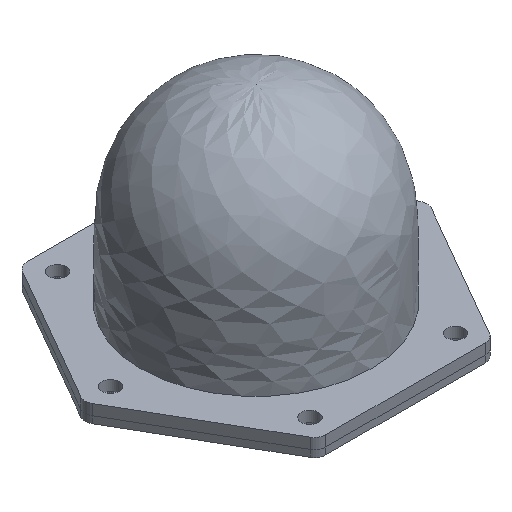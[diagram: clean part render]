
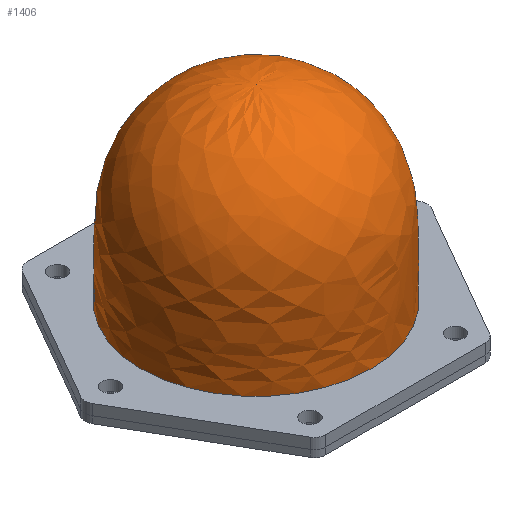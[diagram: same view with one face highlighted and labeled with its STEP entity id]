
A CAD part, isometric view. The second image highlights one B-rep face of the part: STEP entity #1406.
In plain terms, the highlighted face is a revolution surface.
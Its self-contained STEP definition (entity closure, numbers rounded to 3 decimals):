
#939 = EDGE_CURVE('',#940,#940,#942,.T.);
#940 = VERTEX_POINT('',#941);
#941 = CARTESIAN_POINT('',(15.,-25.981,4.55));
#942 = CIRCLE('',#943,30.);
#943 = AXIS2_PLACEMENT_3D('',#944,#945,#946);
#944 = CARTESIAN_POINT('',(0.,0.,4.55));
#945 = DIRECTION('',(0.,0.,1.));
#946 = DIRECTION('',(0.5,-0.866,0.));
#1406 = ADVANCED_FACE('',(#1407),#1422,.T.);
#1407 = FACE_BOUND('',#1408,.T.);
#1408 = EDGE_LOOP('',(#1409,#1410,#1421));
#1409 = ORIENTED_EDGE('',*,*,#939,.T.);
#1410 = ORIENTED_EDGE('',*,*,#1411,.T.);
#1411 = EDGE_CURVE('',#940,#1412,#1414,.T.);
#1412 = VERTEX_POINT('',#1413);
#1413 = CARTESIAN_POINT('',(0.,0.,53.8));
#1414 = B_SPLINE_CURVE_WITH_KNOTS('',3,(#1415,#1416,#1417,#1418,#1419,
    #1420),.UNSPECIFIED.,.F.,.F.,(4,1,1,4),(0.,0.333,
    0.667,1.),.UNSPECIFIED.);
#1415 = CARTESIAN_POINT('',(15.,-25.981,4.55));
#1416 = CARTESIAN_POINT('',(15.,-25.981,10.05));
#1417 = CARTESIAN_POINT('',(14.975,-25.937,17.3));
#1418 = CARTESIAN_POINT('',(14.875,-25.764,39.8));
#1419 = CARTESIAN_POINT('',(6.25,-10.825,53.8));
#1420 = CARTESIAN_POINT('',(0.,0.,53.8));
#1421 = ORIENTED_EDGE('',*,*,#1411,.F.);
#1422 = SURFACE_OF_REVOLUTION('',#1423,#1430);
#1423 = B_SPLINE_CURVE_WITH_KNOTS('',3,(#1424,#1425,#1426,#1427,#1428,
    #1429),.UNSPECIFIED.,.F.,.F.,(4,1,1,4),(0.,0.333,
    0.667,1.),.UNSPECIFIED.);
#1424 = CARTESIAN_POINT('',(15.,-25.981,4.55));
#1425 = CARTESIAN_POINT('',(15.,-25.981,10.05));
#1426 = CARTESIAN_POINT('',(14.975,-25.937,17.3));
#1427 = CARTESIAN_POINT('',(14.875,-25.764,39.8));
#1428 = CARTESIAN_POINT('',(6.25,-10.825,53.8));
#1429 = CARTESIAN_POINT('',(0.,0.,53.8));
#1430 = AXIS1_PLACEMENT('',#1431,#1432);
#1431 = CARTESIAN_POINT('',(0.,0.,1.8));
#1432 = DIRECTION('',(0.,0.,1.));
